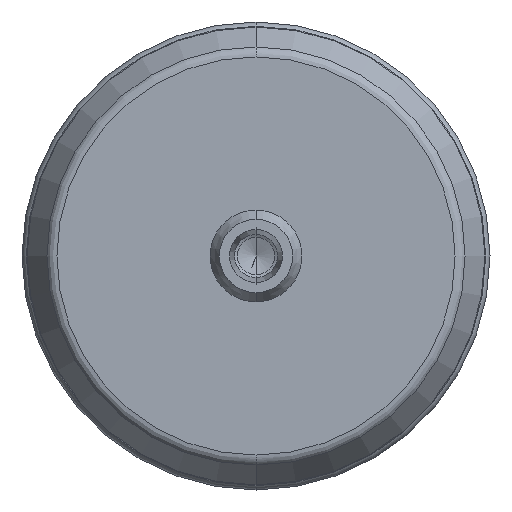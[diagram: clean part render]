
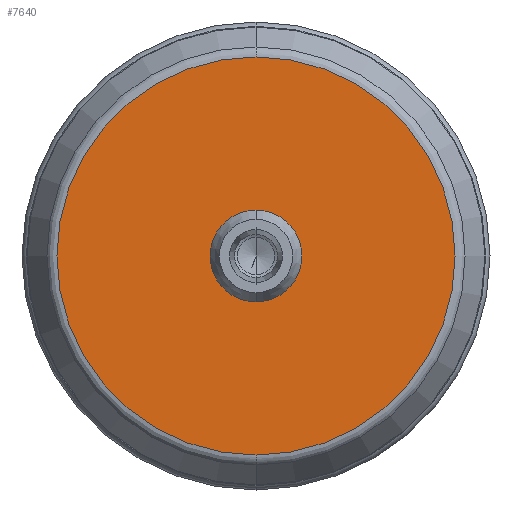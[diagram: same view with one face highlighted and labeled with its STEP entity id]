
A CAD part, front view. The second image highlights one B-rep face of the part: STEP entity #7640.
In plain terms, the highlighted planar face has unit normal (0, -1, 0).
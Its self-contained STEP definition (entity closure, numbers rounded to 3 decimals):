
#76 = CARTESIAN_POINT ( 'NONE',  ( 0., -17., 0. ) ) ;
#80 = CIRCLE ( 'NONE', #5012, 34.67 ) ;
#223 = EDGE_CURVE ( 'NONE', #3142, #5378, #7833, .T. ) ;
#532 = CARTESIAN_POINT ( 'NONE',  ( 34.67, -17., 0. ) ) ;
#768 = EDGE_CURVE ( 'NONE', #5334, #3298, #80, .T. ) ;
#965 = DIRECTION ( 'NONE',  ( 0., 0., -1. ) ) ;
#1003 = DIRECTION ( 'NONE',  ( 0., -1., 0. ) ) ;
#1034 = EDGE_CURVE ( 'NONE', #3298, #5334, #7841, .T. ) ;
#1629 = CARTESIAN_POINT ( 'NONE',  ( 0., -17., 0. ) ) ;
#1806 = EDGE_CURVE ( 'NONE', #5378, #3142, #7713, .T. ) ;
#1907 = AXIS2_PLACEMENT_3D ( 'NONE', #2286, #2386, #2923 ) ;
#2014 = ORIENTED_EDGE ( 'NONE', *, *, #1034, .T. ) ;
#2080 = FACE_BOUND ( 'NONE', #4844, .T. ) ;
#2209 = AXIS2_PLACEMENT_3D ( 'NONE', #532, #3236, #6979 ) ;
#2286 = CARTESIAN_POINT ( 'NONE',  ( 0., -17., 0. ) ) ;
#2342 = CARTESIAN_POINT ( 'NONE',  ( 0., -17., 6. ) ) ;
#2386 = DIRECTION ( 'NONE',  ( 0., -1., 0. ) ) ;
#2691 = ORIENTED_EDGE ( 'NONE', *, *, #768, .T. ) ;
#2923 = DIRECTION ( 'NONE',  ( 0., 0., -1. ) ) ;
#3142 = VERTEX_POINT ( 'NONE', #2342 ) ;
#3236 = DIRECTION ( 'NONE',  ( 0., -1., 0. ) ) ;
#3298 = VERTEX_POINT ( 'NONE', #6448 ) ;
#3364 = DIRECTION ( 'NONE',  ( 0., 0., -1. ) ) ;
#4016 = CARTESIAN_POINT ( 'NONE',  ( 0., -17., 0. ) ) ;
#4711 = DIRECTION ( 'NONE',  ( 0., -1., 0. ) ) ;
#4777 = PLANE ( 'NONE',  #2209 ) ;
#4844 = EDGE_LOOP ( 'NONE', ( #6751, #4957 ) ) ;
#4957 = ORIENTED_EDGE ( 'NONE', *, *, #223, .F. ) ;
#5012 = AXIS2_PLACEMENT_3D ( 'NONE', #4016, #5479, #3364 ) ;
#5315 = AXIS2_PLACEMENT_3D ( 'NONE', #1629, #1003, #965 ) ;
#5334 = VERTEX_POINT ( 'NONE', #6356 ) ;
#5378 = VERTEX_POINT ( 'NONE', #5608 ) ;
#5479 = DIRECTION ( 'NONE',  ( 0., -1., 0. ) ) ;
#5608 = CARTESIAN_POINT ( 'NONE',  ( 0., -17., -6. ) ) ;
#6294 = AXIS2_PLACEMENT_3D ( 'NONE', #76, #4711, #7414 ) ;
#6356 = CARTESIAN_POINT ( 'NONE',  ( 0., -17., -34.67 ) ) ;
#6448 = CARTESIAN_POINT ( 'NONE',  ( 0., -17., 34.67 ) ) ;
#6751 = ORIENTED_EDGE ( 'NONE', *, *, #1806, .F. ) ;
#6979 = DIRECTION ( 'NONE',  ( 0., 0., -1. ) ) ;
#7414 = DIRECTION ( 'NONE',  ( 0., 0., -1. ) ) ;
#7640 = ADVANCED_FACE ( 'NONE', ( #8130, #2080 ), #4777, .T. ) ;
#7713 = CIRCLE ( 'NONE', #5315, 6. ) ;
#7833 = CIRCLE ( 'NONE', #1907, 6. ) ;
#7841 = CIRCLE ( 'NONE', #6294, 34.67 ) ;
#8044 = EDGE_LOOP ( 'NONE', ( #2691, #2014 ) ) ;
#8130 = FACE_OUTER_BOUND ( 'NONE', #8044, .T. ) ;
